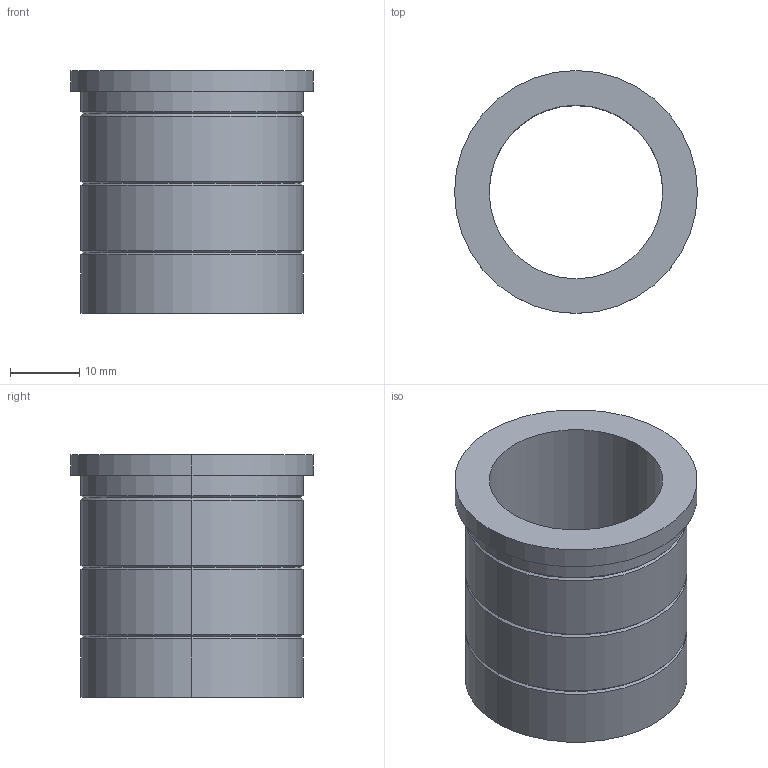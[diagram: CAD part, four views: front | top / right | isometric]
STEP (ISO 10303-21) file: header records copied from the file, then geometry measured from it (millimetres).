
FILE_DESCRIPTION(/* description */ (''),/* implementation_level */ '2;1');
FILE_NAME(/* name */ '3d_sgbt25-35_00020_r00.stp',/* time_stamp */ '2011-01-10T14:11:12+09:00',/* author */ ('MISUMI'),/* organization */ (''),/* preprocessor_version */ 'ST-DEVELOPER v11',/* originating_system */ 'UGS - NX 5.0',/* authorisation */ '');
FILE_SCHEMA (('CONFIG_CONTROL_DESIGN'));
Length unit declared in the file: millimetre
Products named in the file (1): 3d_sgbt25-35_00020_r00
Bounding box: 35 x 35 x 35 mm (x, y, z)
Volume: 11414.7 mm3; surface area: 7310.8 mm2
Topology: 1 solids, 1 shells, 27 faces, 54 edges, 30 vertices
Faces by surface type: cylinder 12, cone 12, plane 3
Entity records: 784 total; most frequent: DIRECTION 140, CARTESIAN_POINT 112, ORIENTED_EDGE 108, AXIS2_PLACEMENT_3D 58, EDGE_CURVE 54, EDGE_LOOP 30, VERTEX_POINT 30, CIRCLE 30
